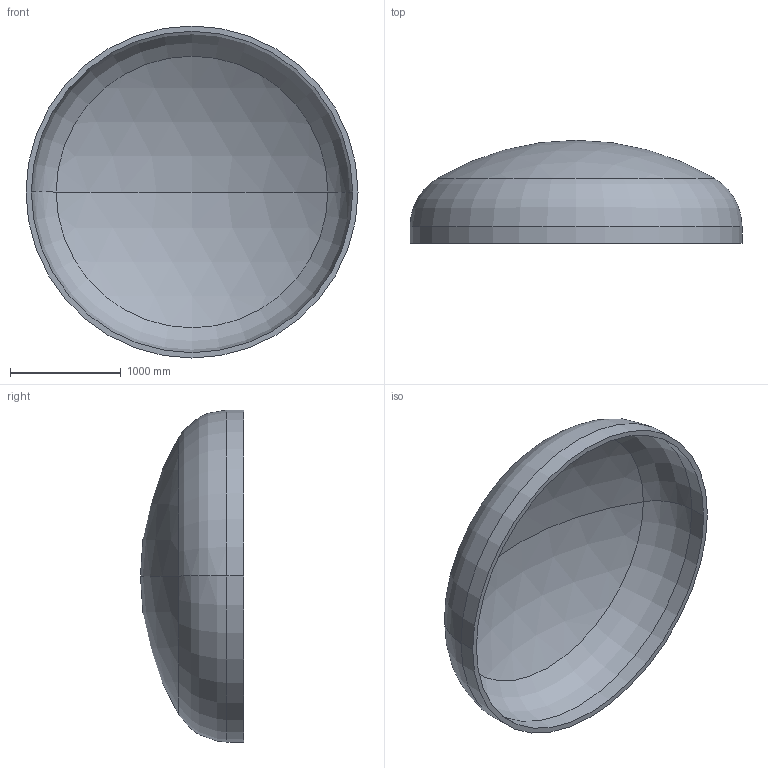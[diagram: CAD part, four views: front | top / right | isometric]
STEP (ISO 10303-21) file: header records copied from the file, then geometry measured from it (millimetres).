
FILE_DESCRIPTION (( 'STEP AP203' ), '1' );
FILE_NAME ('DIN 28013 Korbbogenform_-_Boden DIN 28013 - 3000 x 150 - I - s=48.step', '2016-07-01T17:50:45', ( '' ), ( '' ), 'SwSTEP 2.0', 'SolidWorks 2013', '' );
FILE_SCHEMA (( 'CONFIG_CONTROL_DESIGN' ));
Length unit declared in the file: millimetre
Products named in the file (1): DIN 28013 Korbbogenform_-_Boden DIN 28013 - 3000 x 150 - I - s=48
Bounding box: 3000 x 930.81 x 3000 mm (x, y, z)
Volume: 526474012.4 mm3; surface area: 22386386.4 mm2
Topology: 1 solids, 1 shells, 13 faces, 24 edges, 14 vertices
Faces by surface type: torus 4, cylinder 4, sphere 4, plane 1
Entity records: 407 total; most frequent: DIRECTION 72, CARTESIAN_POINT 52, ORIENTED_EDGE 48, AXIS2_PLACEMENT_3D 34, EDGE_CURVE 24, CIRCLE 20, VERTEX_POINT 14, EDGE_LOOP 14
